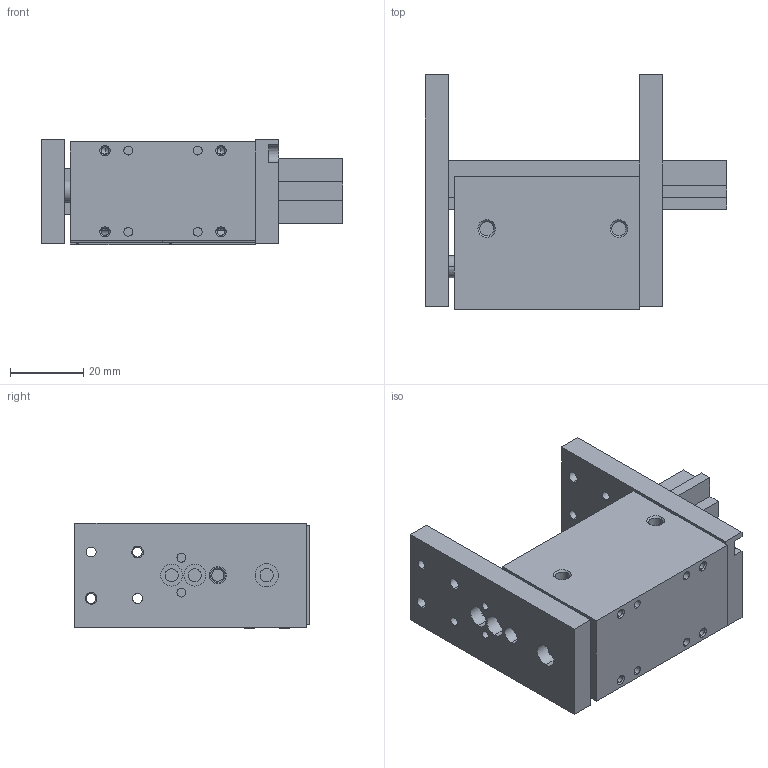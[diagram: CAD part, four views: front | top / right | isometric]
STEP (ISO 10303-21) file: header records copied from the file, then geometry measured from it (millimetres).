
FILE_DESCRIPTION (( 'STEP AP203' ), '1' );
FILE_NAME ('AGPS-2-2 CLOSED in IN.STEP', '2014-11-21T17:27:01', ( 'setup' ), ( '' ), 'SwSTEP 2.0', 'SolidWorks 2013', '' );
FILE_SCHEMA (( 'CONFIG_CONTROL_DESIGN' ));
Length unit declared in the file: inch
Products named in the file (8): AGPS-2-2 SENSOR; AGPS-2-2 END PLATE B; AGPS-2-2 END PLATE A; AGPS-2-2 CLOSED in IN; AGPS-2-2 BODY; AGPS-2-2 CUSHION; AGPS-2-2 RAIL; AGPS-2-2 PROD
Assembly tree (8 placements, depth 2):
  AGPS-2-2 CLOSED in IN
    AGPS-2-2 BODY
    AGPS-2-2 CUSHION
    AGPS-2-2 RAIL
    AGPS-2-2 PROD
    AGPS-2-2 SENSOR  x2
    AGPS-2-2 END PLATE B
    AGPS-2-2 END PLATE A
Bounding box: 82.55 x 64.21 x 29 mm (x, y, z)
Volume: 73462 mm3; surface area: 30704.7 mm2
Topology: 8 solids, 8 shells, 308 faces, 739 edges, 472 vertices
Faces by surface type: cylinder 139, plane 127, cone 40, torus 2
Entity records: 9248 total; most frequent: DIRECTION 1524, CARTESIAN_POINT 1510, ORIENTED_EDGE 1332, EDGE_CURVE 666, AXIS2_PLACEMENT_3D 576, VERTEX_POINT 432, LINE 372, VECTOR 372
